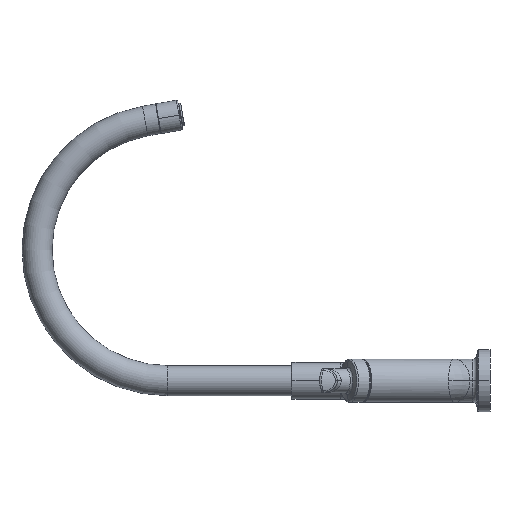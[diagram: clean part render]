
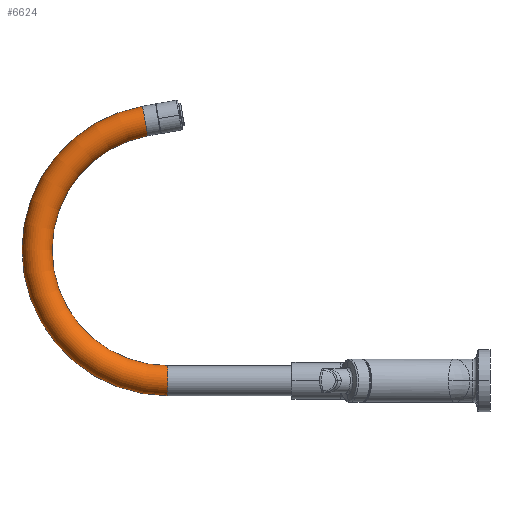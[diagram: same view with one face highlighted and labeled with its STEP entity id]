
A CAD part, left-side view. The second image highlights one B-rep face of the part: STEP entity #6624.
In plain terms, the highlighted toroidal (fillet/blend) face has major radius 100 mm and minor radius 11.5 mm.
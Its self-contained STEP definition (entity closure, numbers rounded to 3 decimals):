
#6501=CARTESIAN_POINT('',(0.,245.8,0.));
#6502=DIRECTION('',(0.,1.,0.));
#6503=DIRECTION('',(0.,0.,-1.));
#6504=AXIS2_PLACEMENT_3D('',#6501,#6502,#6503);
#6506=CARTESIAN_POINT('',(0.,245.8,100.));
#6507=DIRECTION('',(1.,0.,0.));
#6508=DIRECTION('',(0.,0.,-1.));
#6509=AXIS2_PLACEMENT_3D('',#6506,#6507,#6508);
#6516=CARTESIAN_POINT('',(0.,245.8,100.));
#6517=DIRECTION('',(1.,0.,0.));
#6518=DIRECTION('',(0.,0.,-1.));
#6519=AXIS2_PLACEMENT_3D('',#6516,#6517,#6518);
#6530=CARTESIAN_POINT('',(0.,263.165,198.481));
#6531=DIRECTION('',(0.,-0.985,0.174));
#6532=DIRECTION('',(0.,0.174,0.985));
#6533=AXIS2_PLACEMENT_3D('',#6530,#6531,#6532);
#6553=CARTESIAN_POINT('',(0.,245.8,11.5));
#6554=CARTESIAN_POINT('',(0.,245.8,-11.5));
#6555=VERTEX_POINT('',#6553);
#6556=VERTEX_POINT('',#6554);
#6557=CARTESIAN_POINT('',(0.,261.168,187.155));
#6558=CARTESIAN_POINT('',(0.,265.162,209.806));
#6559=VERTEX_POINT('',#6557);
#6560=VERTEX_POINT('',#6558);
#6610=CARTESIAN_POINT('',(0.,245.8,100.));
#6611=DIRECTION('',(1.,0.,0.));
#6612=DIRECTION('',(0.,0.,1.));
#6613=AXIS2_PLACEMENT_3D('',#6610,#6611,#6612);
#6614=TOROIDAL_SURFACE('',#6613,100.,11.5);
#6615=ORIENTED_EDGE('',*,*,#6599,.F.);
#6617=ORIENTED_EDGE('',*,*,#6616,.T.);
#6619=ORIENTED_EDGE('',*,*,#6618,.T.);
#6621=ORIENTED_EDGE('',*,*,#6620,.F.);
#6622=EDGE_LOOP('',(#6615,#6617,#6619,#6621));
#6623=FACE_OUTER_BOUND('',#6622,.F.);
#6624=ADVANCED_FACE('',(#6623),#6614,.T.);
#6505=CIRCLE('',#6504,11.5);
#6510=CIRCLE('',#6509,111.5);
#6520=CIRCLE('',#6519,88.5);
#6534=CIRCLE('',#6533,11.5);
#6599=EDGE_CURVE('',#6556,#6555,#6505,.T.);
#6616=EDGE_CURVE('',#6556,#6560,#6510,.T.);
#6618=EDGE_CURVE('',#6560,#6559,#6534,.T.);
#6620=EDGE_CURVE('',#6555,#6559,#6520,.T.);
